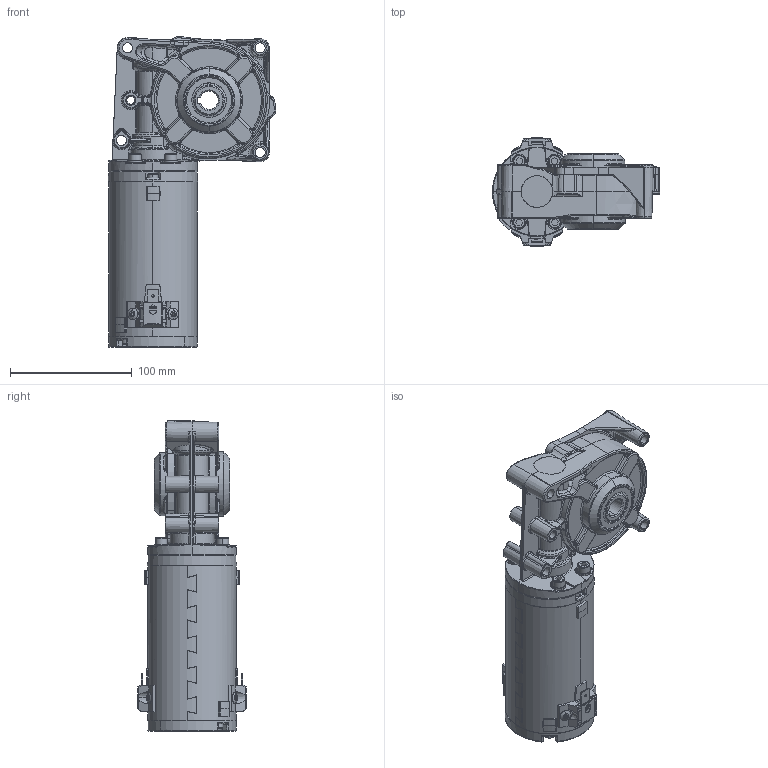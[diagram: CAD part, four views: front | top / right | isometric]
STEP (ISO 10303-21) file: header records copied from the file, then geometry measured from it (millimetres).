
FILE_DESCRIPTION (( 'STEP AP214' ), '1' );
FILE_NAME ('EPM50-GB12.STEP', '2021-10-06T08:28:10', ( '' ), ( '' ), 'SwSTEP 2.0', 'SolidWorks 2020', '' );
FILE_SCHEMA (( 'AUTOMOTIVE_DESIGN' ));
Length unit declared in the file: millimetre
Products named in the file (1): EPM50-GB12
Bounding box: 137.51 x 89.43 x 255.6 mm (x, y, z)
Surface area: 196761.3 mm2 (no closed solid volume)
Topology: 0 solids, 59 shells, 3155 faces, 7986 edges, 4828 vertices
Faces by surface type: plane 806, bspline 800, cylinder 781, torus 365, cone 345, sphere 58
Entity records: 154090 total; most frequent: CARTESIAN_POINT 50547, ORIENTED_EDGE 15068, DIRECTION 13211, EDGE_CURVE 7859, AXIS2_PLACEMENT_3D 5236, VERTEX_POINT 4828, EDGE_LOOP 3354, UNCERTAINTY_MEASURE_WITH_UNIT 3180
